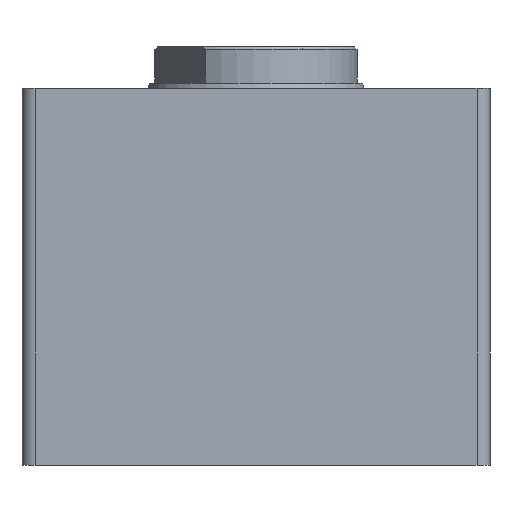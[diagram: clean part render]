
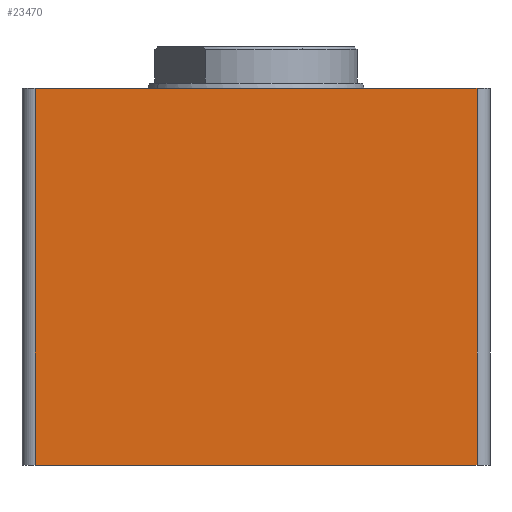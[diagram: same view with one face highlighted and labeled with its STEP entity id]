
A CAD part, left-side view. The second image highlights one B-rep face of the part: STEP entity #23470.
In plain terms, the highlighted planar face has unit normal (-1, 0, 0).
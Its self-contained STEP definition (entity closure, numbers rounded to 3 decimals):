
#21 = VERTEX_POINT ( 'NONE', #16640 ) ;
#194 = EDGE_CURVE ( 'NONE', #9992, #1067, #19625, .T. ) ;
#818 = EDGE_LOOP ( 'NONE', ( #20907, #6159, #15357, #15827 ) ) ;
#1067 = VERTEX_POINT ( 'NONE', #10555 ) ;
#3412 = VERTEX_POINT ( 'NONE', #13736 ) ;
#4649 = VECTOR ( 'NONE', #10677, 1000. ) ;
#6159 = ORIENTED_EDGE ( 'NONE', *, *, #27802, .T. ) ;
#7120 = FACE_OUTER_BOUND ( 'NONE', #818, .T. ) ;
#8150 = AXIS2_PLACEMENT_3D ( 'NONE', #15822, #16241, #13677 ) ;
#9009 = EDGE_CURVE ( 'NONE', #9992, #3412, #21530, .T. ) ;
#9992 = VERTEX_POINT ( 'NONE', #15946 ) ;
#10494 = VECTOR ( 'NONE', #16049, 1000. ) ;
#10555 = CARTESIAN_POINT ( 'NONE',  ( 0., 5., 145. ) ) ;
#10677 = DIRECTION ( 'NONE',  ( 0., 0., -1. ) ) ;
#11480 = CARTESIAN_POINT ( 'NONE',  ( 0., 0., 145. ) ) ;
#11794 = LINE ( 'NONE', #12365, #18258 ) ;
#12365 = CARTESIAN_POINT ( 'NONE',  ( 0., 0., 0. ) ) ;
#13677 = DIRECTION ( 'NONE',  ( 0., 0., -1. ) ) ;
#13736 = CARTESIAN_POINT ( 'NONE',  ( 0., 175., 0. ) ) ;
#14114 = VECTOR ( 'NONE', #26785, 1000. ) ;
#15357 = ORIENTED_EDGE ( 'NONE', *, *, #194, .F. ) ;
#15822 = CARTESIAN_POINT ( 'NONE',  ( 0., 0., 145. ) ) ;
#15827 = ORIENTED_EDGE ( 'NONE', *, *, #9009, .T. ) ;
#15946 = CARTESIAN_POINT ( 'NONE',  ( 0., 175., 145. ) ) ;
#16049 = DIRECTION ( 'NONE',  ( 0., 0., 1. ) ) ;
#16186 = LINE ( 'NONE', #24921, #10494 ) ;
#16241 = DIRECTION ( 'NONE',  ( 1., 0., 0. ) ) ;
#16640 = CARTESIAN_POINT ( 'NONE',  ( 0., 5., 0. ) ) ;
#18258 = VECTOR ( 'NONE', #25247, 1000. ) ;
#19097 = EDGE_CURVE ( 'NONE', #3412, #21, #11794, .T. ) ;
#19625 = LINE ( 'NONE', #11480, #14114 ) ;
#20548 = PLANE ( 'NONE',  #8150 ) ;
#20907 = ORIENTED_EDGE ( 'NONE', *, *, #19097, .T. ) ;
#21530 = LINE ( 'NONE', #23116, #4649 ) ;
#23116 = CARTESIAN_POINT ( 'NONE',  ( 0., 175., 145. ) ) ;
#23470 = ADVANCED_FACE ( 'NONE', ( #7120 ), #20548, .F. ) ;
#24921 = CARTESIAN_POINT ( 'NONE',  ( 0., 5., 145. ) ) ;
#25247 = DIRECTION ( 'NONE',  ( 0., -1., 0. ) ) ;
#26785 = DIRECTION ( 'NONE',  ( 0., -1., 0. ) ) ;
#27802 = EDGE_CURVE ( 'NONE', #21, #1067, #16186, .T. ) ;
